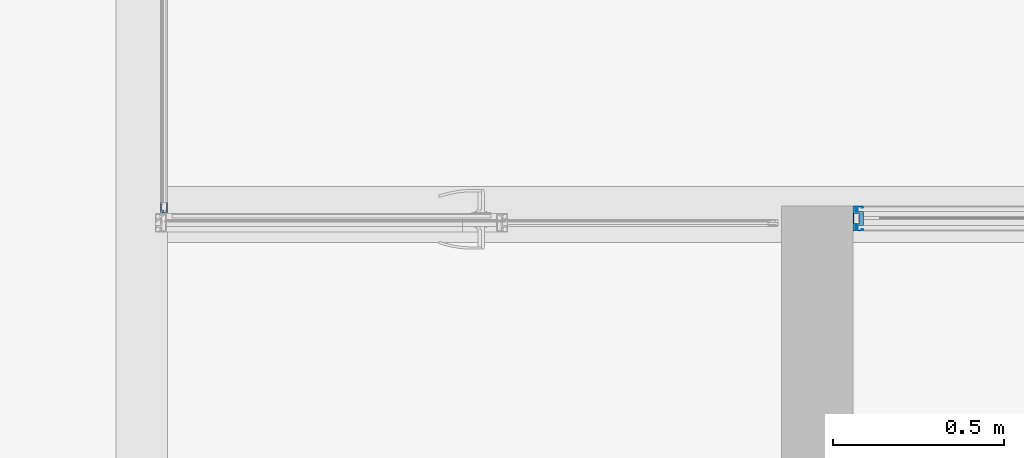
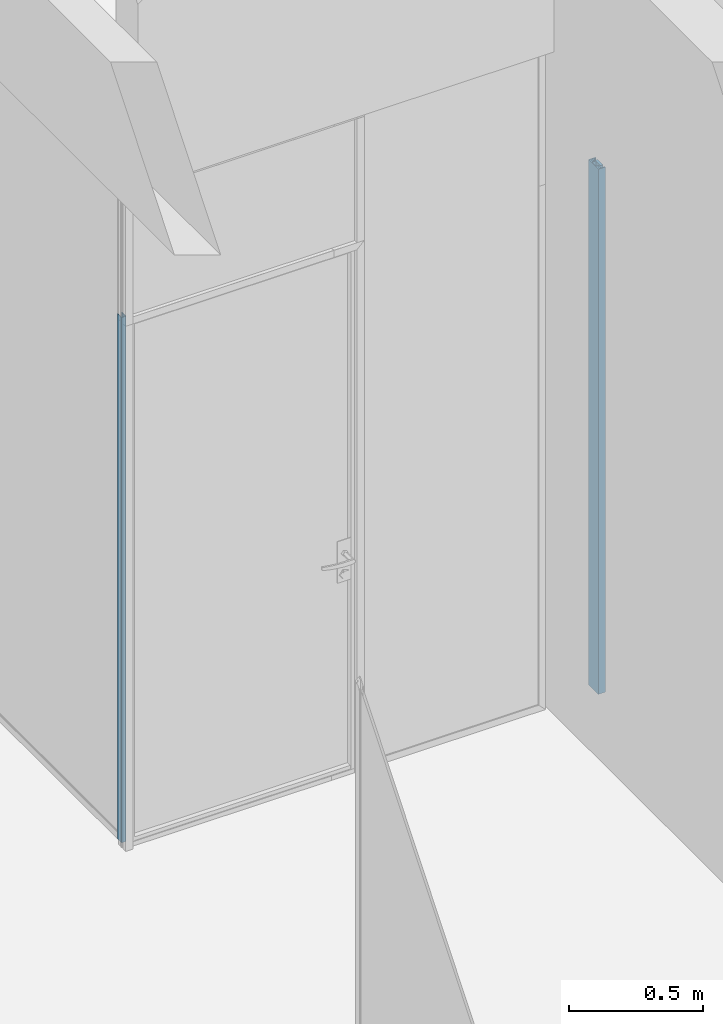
# One storey, part 56 of 387: 3 building element parts, 4 elements without a shape of their own.
"""IFC2X3 building model written with IfcOpenShell, lengths in millimetres."""

import ifcopenshell
import ifcopenshell.guid

model = None  # the IFC model being written
_history = None  # IfcOwnerHistory: only IFC2X3 demands one
_inside = {}  # id of a spatial element -> (the spatial element, [elements in it])
_under = {}  # id of a project, library or spatial element -> (it, [spatial elements below it])
_declared = {}  # id of a project -> (the project, [libraries it declares])
_typed = {}  # id of a type object -> (the type object, [elements of that type])
_made_of = {}  # id of a material, layer set ... -> (it, [elements and type objects made of it])


def new_model(schema):
    """Start an empty IFC model of exactly this schema.

    Asked for "IFC4X3", IfcOpenShell would pick the latest addendum, in which some entities
    have other attributes; the version numbers below select the first issue.
    IFC2X3 requires an IfcOwnerHistory on every rooted entity: one is made here for all.
    """
    global model, _history
    if schema == "IFC4X3":
        model = ifcopenshell.file(schema_version=(4, 3, 0, 0))
    else:
        model = ifcopenshell.file(schema=schema)
    _inside.clear()
    _under.clear()
    _declared.clear()
    _typed.clear()
    _made_of.clear()
    _history = None
    if model.schema == "IFC2X3":
        org = make("IfcOrganization", Name="unknown")
        user = make(
            "IfcPersonAndOrganization",
            ThePerson=make("IfcPerson", FamilyName="unknown"),
            TheOrganization=org,
        )
        app = make(
            "IfcApplication",
            ApplicationDeveloper=org,
            Version="unknown",
            ApplicationFullName="unknown",
            ApplicationIdentifier="unknown",
        )
        _history = make(
            "IfcOwnerHistory",
            OwningUser=user,
            OwningApplication=app,
            ChangeAction="ADDED",
            CreationDate=0,
        )
    return model


def make(cls, **values):
    """One entity of the class cls with the attributes given. An attribute that is None is left unset."""
    return model.create_entity(
        cls, **{name: value for name, value in values.items() if value is not None}
    )


def entity(cls, *values):
    """Any entity or typed value of the class cls, its attributes in the order of the schema. None: left unset."""
    e = model.create_entity(cls)
    for i, value in enumerate(values):
        if value is not None:
            e[i] = value
    return e


def rooted(cls, **values):
    """An entity with a GlobalId (a new one), such as an element, a storey or a relation."""
    return make(cls, GlobalId=ifcopenshell.guid.new(), OwnerHistory=_history, **values)


def si_unit(unit_type, name, prefix=None):
    """IfcSIUnit, for example si_unit("LENGTHUNIT", "METRE", prefix="MILLI")."""
    return make("IfcSIUnit", UnitType=unit_type, Prefix=prefix, Name=name)


def converted_unit(unit_type, name, factor, base, dimensions=None, offset=None):
    """IfcConversionBasedUnit, such as the inch: factor (a typed value) times the base unit."""
    return make(
        "IfcConversionBasedUnit"
        if offset is None
        else "IfcConversionBasedUnitWithOffset",
        ConversionOffset=offset,
        Dimensions=None
        if dimensions is None
        else entity("IfcDimensionalExponents", *dimensions),
        UnitType=unit_type,
        Name=name,
        ConversionFactor=make(
            "IfcMeasureWithUnit", ValueComponent=factor, UnitComponent=base
        ),
    )


def derived_unit(unit_type, elements):
    """IfcDerivedUnit: a product of units, each with its exponent."""
    return make(
        "IfcDerivedUnit",
        Elements=[
            make("IfcDerivedUnitElement", Unit=unit, Exponent=power)
            for unit, power in elements
        ],
        UnitType=unit_type,
    )


def money_unit(currency):
    """IfcMonetaryUnit."""
    return make("IfcMonetaryUnit", Currency=currency)


def assignment(units):
    """IfcUnitAssignment: the units of a project."""
    return None if units is None else make("IfcUnitAssignment", Units=units)


def point(xyz):
    """IfcCartesianPoint."""
    return None if xyz is None else make("IfcCartesianPoint", Coordinates=xyz)


def direction(xyz):
    """IfcDirection."""
    return None if xyz is None else make("IfcDirection", DirectionRatios=xyz)


def frame(location, z_axis=None, x_axis=None):
    """IfcAxis2Placement3D, a coordinate frame: its origin and axes. An axis left out is left unset."""
    return make(
        "IfcAxis2Placement3D",
        Location=point(location),
        Axis=direction(z_axis),
        RefDirection=direction(x_axis),
    )


def origin_with_axes():
    """The frame at (0, 0, 0) with the z axis (0, 0, 1) and the x axis (1, 0, 0) written out."""
    return frame((0.0, 0.0, 0.0), z_axis=(0.0, 0.0, 1.0), x_axis=(1.0, 0.0, 0.0))


def place(relative_to, where):
    """IfcLocalPlacement: puts the frame where relative to a parent placement (None: the world)."""
    return make(
        "IfcLocalPlacement", PlacementRelTo=relative_to, RelativePlacement=where
    )


def context(
    kind, dimensions, precision=None, world=None, true_north=None, identifier=None
):
    """IfcGeometricRepresentationContext, for example the 3D "Model" context."""
    return make(
        "IfcGeometricRepresentationContext",
        ContextIdentifier=identifier,
        ContextType=kind,
        CoordinateSpaceDimension=dimensions,
        Precision=precision,
        WorldCoordinateSystem=world,
        TrueNorth=true_north,
    )


def subcontext(parent, identifier, kind, view, scale=None):
    """IfcGeometricRepresentationSubContext, for example "Body" below "Model"."""
    return make(
        "IfcGeometricRepresentationSubContext",
        ContextIdentifier=identifier,
        ContextType=kind,
        ParentContext=parent,
        TargetScale=scale,
        TargetView=view,
    )


def project(units=None, contexts=None):
    """IfcProject with its units and contexts."""
    return rooted(
        "IfcProject",
        Name="project",
        RepresentationContexts=contexts,
        UnitsInContext=assignment(units),
    )


def spatial(cls, under=None, at=None, **own):
    """A site, building, storey or space (cls), placed at a placement, below another one or the project."""
    s = rooted(cls, ObjectPlacement=at, **own)
    if under is not None:
        _under.setdefault(under.id(), (under, []))[1].append(s)
    return s


def faces_of(points, faces, orient=None, outer=None):
    """IfcFace entities. A face is a list of loops; a loop is a list of indices into points, from 0.

    orient and outer hold one flag for each loop. By default every Orientation is true, the
    first loop of a face is its IfcFaceOuterBound and the others are IfcFaceBound.
    """
    made = []
    for i, loops in enumerate(faces):
        bounds = []
        for j, loop in enumerate(loops):
            is_outer = j == 0 if outer is None else outer[i][j]
            bounds.append(
                make(
                    "IfcFaceOuterBound" if is_outer else "IfcFaceBound",
                    Bound=make("IfcPolyLoop", Polygon=[points[k] for k in loop]),
                    Orientation=True if orient is None else orient[i][j],
                )
            )
        made.append(make("IfcFace", Bounds=bounds))
    return made


def faceted_brep(points, faces, orient=None, outer=None, voids=None):
    """IfcFacetedBrep: a solid bounded by flat faces; with voids (closed shells), ...WithVoids."""
    shared = [point(p) for p in points]
    hull = make("IfcClosedShell", CfsFaces=faces_of(shared, faces, orient, outer))
    if voids is None:
        return make("IfcFacetedBrep", Outer=hull)
    return make(
        "IfcFacetedBrepWithVoids",
        Outer=hull,
        Voids=[
            make(cls, CfsFaces=faces_of(shared, fs, o, b)) for cls, fs, o, b in voids
        ],
    )


def shape(context_of_items, identifier, shape_type, items):
    """IfcShapeRepresentation: the items that make up one representation, for example the "Body"."""
    return make(
        "IfcShapeRepresentation",
        ContextOfItems=context_of_items,
        RepresentationIdentifier=identifier,
        RepresentationType=shape_type,
        Items=items,
    )


def source(mapping_origin, context_of_items, identifier, shape_type, items):
    """IfcRepresentationMap: a shape defined once, which mapped items show again and again."""
    return make(
        "IfcRepresentationMap",
        MappingOrigin=mapping_origin,
        MappedRepresentation=shape(context_of_items, identifier, shape_type, items),
    )


def transform(
    local_origin,
    x_axis=None,
    y_axis=None,
    z_axis=None,
    scale=None,
    scale2=None,
    scale3=None,
    uniform=True,
):
    """IfcCartesianTransformationOperator3D, or its non-uniform kind. x_axis, y_axis, z_axis: its Axis1, 2, 3."""
    if uniform:
        return make(
            "IfcCartesianTransformationOperator3D",
            Axis1=direction(x_axis),
            Axis2=direction(y_axis),
            LocalOrigin=point(local_origin),
            Scale=scale,
            Axis3=direction(z_axis),
        )
    return make(
        "IfcCartesianTransformationOperator3DnonUniform",
        Axis1=direction(x_axis),
        Axis2=direction(y_axis),
        LocalOrigin=point(local_origin),
        Scale=scale,
        Axis3=direction(z_axis),
        Scale2=scale2,
        Scale3=scale3,
    )


def mapped(mapping_source, mapping_target):
    """IfcMappedItem: shows the shape of a source again, moved by a transform."""
    return make(
        "IfcMappedItem", MappingSource=mapping_source, MappingTarget=mapping_target
    )


def material(Name=None, Category=None):
    """IfcMaterial."""
    return make("IfcMaterial", Name=Name, Category=Category)


def made_of(thing, what):
    """Note that an element or type object is made of a material, layer set ...; save() writes the relation."""
    if what is not None:
        _made_of.setdefault(what.id(), (what, []))[1].append(thing)
    return thing


def type_object(cls, material=None, **own):
    """A type object (cls), such as IfcWallType, which elements share."""
    return made_of(rooted(cls, **own), material)


def element(
    cls,
    number,
    at=None,
    inside=None,
    cuts=None,
    type_object=None,
    material=None,
    context=None,
    identifier="Body",
    shape_type=None,
    held_by="IfcProductDefinitionShape",
    body=None,
    shapes=None,
    **own,
):
    """One element of the class cls, such as IfcWall. Its Tag is "e" and its number.

    at: its placement. inside: the storey or other place that contains it. cuts: it is an
    opening in that element (IfcRelVoidsElement). A single representation is given by context,
    identifier, shape_type and body (its items); several are given by shapes. held_by: the class
    of the entity that holds the representations. save() writes the other relations.
    """
    e = rooted(cls, Tag="e%d" % number, ObjectPlacement=at, **own)
    if body is not None:
        shapes = [shape(context, identifier, shape_type, body)]
    if shapes is not None:
        e.Representation = make(held_by, Representations=shapes)
    if inside is not None:
        _inside.setdefault(inside.id(), (inside, []))[1].append(e)
    if cuts is not None:
        rooted(
            "IfcRelVoidsElement", RelatingBuildingElement=cuts, RelatedOpeningElement=e
        )
    if type_object is not None:
        _typed.setdefault(type_object.id(), (type_object, []))[1].append(e)
    return made_of(e, material)


def aggregate(whole, parts):
    """IfcRelAggregates: a whole, such as a stair, and the parts it consists of."""
    return rooted("IfcRelAggregates", RelatingObject=whole, RelatedObjects=parts)


def save(model, path):
    """Write the relations noted so far, then the file.

    IfcRelAggregates (storeys below a building ...), IfcRelContainedInSpatialStructure (elements
    in a storey), IfcRelDefinesByType, IfcRelAssociatesMaterial and IfcRelDeclares: one each for
    every whole, place, type object, material and project.
    """
    for whole, parts in _under.values():
        aggregate(whole, parts)
    for where, things in _inside.values():
        rooted(
            "IfcRelContainedInSpatialStructure",
            RelatedElements=things,
            RelatingStructure=where,
        )
    for kind, things in _typed.values():
        rooted("IfcRelDefinesByType", RelatedObjects=things, RelatingType=kind)
    for what, things in _made_of.values():
        rooted("IfcRelAssociatesMaterial", RelatedObjects=things, RelatingMaterial=what)
    for by, libraries in _declared.values():
        rooted("IfcRelDeclares", RelatingContext=by, RelatedDefinitions=libraries)
    model.write(path)


model = new_model("IFC2X3")

# Units and contexts
model_context = context("Model", 3, precision=0.01, world=origin_with_axes(), true_north=direction((0.0, 1.0)))
body_context = subcontext(model_context, "Body", "Model", "MODEL_VIEW")
ifc_project = project(units=[si_unit("LENGTHUNIT", "METRE", prefix="MILLI"), si_unit("AREAUNIT", "SQUARE_METRE"), si_unit("VOLUMEUNIT", "CUBIC_METRE"), converted_unit("PLANEANGLEUNIT", "DEGREE", entity("IfcPlaneAngleMeasure", 0.0174532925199), si_unit("PLANEANGLEUNIT", "RADIAN"), dimensions=[0, 0, 0, 0, 0, 0, 0]), si_unit("SOLIDANGLEUNIT", "STERADIAN"), money_unit("EUR"), converted_unit("TIMEUNIT", "Year", entity("IfcTimeMeasure", 31556926.0), si_unit("TIMEUNIT", "SECOND"), dimensions=[0, 0, 1, 0, 0, 0, 0]), si_unit("MASSUNIT", "GRAM", prefix="KILO"), si_unit("THERMODYNAMICTEMPERATUREUNIT", "DEGREE_CELSIUS"), si_unit("LUMINOUSINTENSITYUNIT", "LUMEN"), si_unit("ENERGYUNIT", "JOULE", prefix="MEGA"), derived_unit("THERMALCONDUCTANCEUNIT", [(si_unit("POWERUNIT", "WATT"), 1), (si_unit("LENGTHUNIT", "METRE"), -1), (si_unit("THERMODYNAMICTEMPERATUREUNIT", "KELVIN"), -1)]), derived_unit("SPECIFICHEATCAPACITYUNIT", [(si_unit("ENERGYUNIT", "JOULE"), 1), (si_unit("MASSUNIT", "GRAM", prefix="KILO"), -1), (si_unit("THERMODYNAMICTEMPERATUREUNIT", "KELVIN"), -1)]), derived_unit("MASSDENSITYUNIT", [(si_unit("MASSUNIT", "GRAM", prefix="KILO"), 1), (si_unit("VOLUMEUNIT", "CUBIC_METRE"), -1)])], contexts=[model_context])

# Site, building, storey
site_placement = place(None, origin_with_axes())
site = spatial("IfcSite", under=ifc_project, at=site_placement, Name="Puškini 31, Narva", CompositionType="ELEMENT")
building_placement = place(site_placement, origin_with_axes())
building = spatial("IfcBuilding", under=site, at=building_placement, Name="Narva Riigigümnaasium", CompositionType="ELEMENT")
storey_placement = place(building_placement, frame((0.0, 0.0, 2640.0), z_axis=(0.0, 0.0, 1.0), x_axis=(1.0, 0.0, 0.0)))
storey = spatial("IfcBuildingStorey", under=building, at=storey_placement, Name="2.korrus +2.64", CompositionType="ELEMENT", Elevation=2640.0)

# Curtain wall, member, building element part
curtain_wall_type = type_object("IfcCurtainWallType", Name="Curtain Wall Type", PredefinedType="NOTDEFINED")
curtain_wall_1_placement = place(storey_placement, frame((28389.9972784, 173774.499972, -5.2224053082e-05), z_axis=(0.0, 0.0, 1.0), x_axis=(1.0, 0.0, 0.0)))
curtain_wall_1 = element("IfcCurtainWall", 1, at=curtain_wall_1_placement, inside=storey, type_object=curtain_wall_type, Name="G-SKLF-15.2")
member_type_1 = type_object("IfcMemberType", Name="Boundary Frame 30 x 10", PredefinedType="MULLION")
member_1_placement = place(curtain_wall_1_placement, frame((-7.84794451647e-09, -294.500035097, 2400.00005222), z_axis=(0.0, 0.0, -1.0), x_axis=(0.0, 1.0, 0.0)))
member_1 = element("IfcMember", 2, at=member_1_placement, type_object=member_type_1, Name="G-SKLF-93-raam", ObjectType="MULLION")
aggregate(curtain_wall_1, [member_1])
ifc_material_1 = material(Name="ET-04_Alumiinium")
shared_shape_1 = source(origin_with_axes(), body_context, "Body", "Brep", [
    faceted_brep([(0.0, 9.99999999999, -4.10349964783e-07), (0.0, 9.99999999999, 2400.00005222), (0.0, -9.99999999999, 2400.00005222), (0.0, -9.99999999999, -4.10349964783e-07), (-29.5, 10.0, -4.10349964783e-07), (-29.5, 10.0, 2400.00005222), (-29.75, 9.93301270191, 2400.00005222), (-29.9330127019, 9.75000000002, 2400.00005222), (-30.0, 9.5, 2400.00005222), (-30.0, 7.49999999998, 2400.00005222), (-29.9330127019, 7.24999999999, 2400.00005222), (-29.75, 7.06698729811, 2400.00005222), (-29.5, 7.00000000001, 2400.00005222), (-28.7609519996, 6.99999999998, 2400.00005222), (-28.7, 6.99999999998, 2400.00005222), (-28.6, 7.02679491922, 2400.00005222), (-28.5267949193, 7.09999999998, 2400.00005222), (-28.5, 7.19999999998, 2400.00005222), (-28.5, 7.24760028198, 2400.00005222), (-28.5, 7.76282847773, 2400.00005222), (-28.4849473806, 7.87744178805, 2400.00005222), (-28.4104265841, 7.9658128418, 2400.00005222), (-28.3, 8.00000000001, 2400.00005222), (-25.2, 8.00000000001, 2400.00005222), (-25.1, 7.97320508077, 2400.00005222), (-25.0267949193, 7.90000000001, 2400.00005222), (-25.0, 7.8, 2400.00005222), (-25.0, 7.20000000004, 2400.00005222), (-24.9732050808, 7.10000000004, 2400.00005222), (-24.9, 7.02679491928, 2400.00005222), (-24.8, 7.00000000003, 2400.00005222), (-11.7527616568, 6.99999999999, 2400.00005222), (-11.6187870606, 7.49999999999, 2400.00005222), (-11.2527616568, 7.86602540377, 2400.00005222), (-10.7527616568, 7.99999999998, 2400.00005222), (-6.49999999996, 7.99999999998, 2400.00005222), (-6.99999999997, 7.86602540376, 2400.00005222), (-7.36602540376, 7.49999999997, 2400.00005222), (-7.49999999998, 6.99999999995, 2400.00005222), (-7.49999999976, 2.00000000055, 2400.00005222), (-7.43301270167, 1.75000000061, 2400.00005222), (-7.24999999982, 1.56698729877, 2400.00005222), (-6.99999999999, 1.50000000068, 2400.00005222), (-2.99998847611, 1.50000000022, 2400.00005222), (-2.75096907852, 1.43357737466, 2400.00005222), (-2.56811176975, 1.25195735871, 2400.00005222), (-2.5, 1.00339466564, 2400.00005222), (-2.5, -6.99999999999, 2400.00005222), (-2.56698729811, -7.24999999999, 2400.00005222), (-2.75, -7.43301270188, 2400.00005222), (-3.0, -7.49999999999, 2400.00005222), (-5.24723834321, -7.49999999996, 2400.00005222), (-5.49723834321, -7.43301270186, 2400.00005222), (-5.6802510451, -7.24999999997, 2400.00005222), (-5.7472383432, -6.99999999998, 2400.00005222), (-5.74723834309, -4.03369212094, 2400.00005222), (-7.0, -4.03369212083, 2400.00005222), (-7.24999999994, -4.10067941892, 2400.00005222), (-7.43301270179, -4.28369212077, 2400.00005222), (-7.49999999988, -4.5336921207, 2400.00005222), (-7.49999999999, -7.00000000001, 2400.00005222), (-7.63397459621, -7.50000000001, 2400.00005222), (-7.99999999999, -7.86602540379, 2400.00005222), (-8.49999999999, -8.00000000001, 2400.00005222), (-10.7527616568, -7.99999999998, 2400.00005222), (-11.2527616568, -7.86602540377, 2400.00005222), (-11.6187870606, -7.49999999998, 2400.00005222), (-11.7527616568, -6.99999999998, 2400.00005222), (-24.8, -7.00000000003, 2400.00005222), (-24.9, -7.02679491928, 2400.00005222), (-24.9732050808, -7.10000000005, 2400.00005222), (-25.0, -7.20000000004, 2400.00005222), (-25.0, -7.79999999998, 2400.00005222), (-25.0267949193, -7.89999999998, 2400.00005222), (-25.1, -7.97320508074, 2400.00005222), (-25.2, -7.99999999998, 2400.00005222), (-28.3, -7.99999999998, 2400.00005222), (-28.4, -7.97320508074, 2400.00005222), (-28.4732050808, -7.89999999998, 2400.00005222), (-28.5, -7.79999999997, 2400.00005222), (-28.5, -7.19999999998, 2400.00005222), (-28.5267949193, -7.09999999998, 2400.00005222), (-28.6, -7.02679491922, 2400.00005222), (-28.7, -6.99999999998, 2400.00005222), (-29.5, -6.99999999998, 2400.00005222), (-29.75, -7.06698729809, 2400.00005222), (-29.9330127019, -7.24999999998, 2400.00005222), (-30.0, -7.49999999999, 2400.00005222), (-30.0, -9.5, 2400.00005222), (-29.9224245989, -9.76651288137, 2400.00005222), (-29.7157683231, -9.95182408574, 2400.00005222), (-29.4424074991, -9.99999999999, 2400.00005222), (-29.4424074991, -9.99999999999, -4.10349964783e-07), (-29.7157683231, -9.95182408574, -4.10349964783e-07), (-29.9224245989, -9.76651288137, -4.10349964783e-07), (-30.0, -9.5, -4.10349964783e-07), (-30.0, -7.49999999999, -4.10349964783e-07), (-29.9330127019, -7.24999999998, -4.10349964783e-07), (-29.75, -7.06698729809, -4.10349964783e-07), (-29.5, -6.99999999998, -4.10349964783e-07), (-28.7, -6.99999999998, -4.10349964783e-07), (-28.6, -7.02679491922, -4.10349964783e-07), (-28.5267949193, -7.09999999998, -4.10349964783e-07), (-28.5, -7.19999999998, -4.10349964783e-07), (-28.5, -7.79999999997, -4.10349964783e-07), (-28.4732050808, -7.89999999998, -4.10349964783e-07), (-28.4, -7.97320508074, -4.10349964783e-07), (-28.3, -7.99999999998, -4.10349964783e-07), (-25.2, -7.99999999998, -4.10349964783e-07), (-25.1, -7.97320508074, -4.10349964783e-07), (-25.0267949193, -7.89999999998, -4.10349964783e-07), (-25.0, -7.79999999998, -4.10349964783e-07), (-25.0, -7.20000000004, -4.10349964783e-07), (-24.9732050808, -7.10000000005, -4.10349964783e-07), (-24.9, -7.02679491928, -4.10349964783e-07), (-24.8, -7.00000000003, -4.10349964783e-07), (-11.7527616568, -6.99999999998, -4.10349964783e-07), (-11.6187870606, -7.49999999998, -4.10349964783e-07), (-11.2527616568, -7.86602540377, -4.10349964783e-07), (-10.7527616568, -7.99999999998, -4.10349964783e-07), (-8.49999999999, -8.00000000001, -4.10349964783e-07), (-7.99999999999, -7.86602540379, -4.10349964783e-07), (-7.63397459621, -7.50000000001, -4.10349964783e-07), (-7.49999999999, -7.00000000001, -4.10349964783e-07), (-7.49999999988, -4.5336921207, -4.10349964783e-07), (-7.43301270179, -4.28369212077, -4.10349964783e-07), (-7.24999999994, -4.10067941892, -4.10349964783e-07), (-7.0, -4.03369212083, -4.10349964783e-07), (-5.74723834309, -4.03369212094, -4.10349964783e-07), (-5.7472383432, -6.99999999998, -4.10349964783e-07), (-5.6802510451, -7.24999999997, -4.10349964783e-07), (-5.49723834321, -7.43301270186, -4.10349964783e-07), (-5.24723834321, -7.49999999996, -4.10349964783e-07), (-3.0, -7.49999999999, -4.10349964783e-07), (-2.75, -7.43301270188, -4.10349964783e-07), (-2.56698729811, -7.24999999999, -4.10349964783e-07), (-2.5, -6.99999999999, -4.10349964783e-07), (-2.5, 1.00339466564, -4.10349964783e-07), (-2.56811176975, 1.25195735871, -4.10349964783e-07), (-2.75096907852, 1.43357737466, -4.10349964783e-07), (-2.99998847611, 1.50000000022, -4.10349964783e-07), (-6.99999999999, 1.50000000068, -4.10349964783e-07), (-7.24999999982, 1.56698729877, -4.10349964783e-07), (-7.43301270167, 1.75000000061, -4.10349964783e-07), (-7.49999999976, 2.00000000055, -4.10349964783e-07), (-7.49999999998, 6.99999999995, -4.10349964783e-07), (-7.36602540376, 7.49999999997, -4.10349964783e-07), (-6.99999999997, 7.86602540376, -4.10349964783e-07), (-6.49999999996, 7.99999999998, -4.10349964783e-07), (-10.7527616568, 7.99999999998, -4.10349964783e-07), (-11.2527616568, 7.86602540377, -4.10349964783e-07), (-11.6187870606, 7.49999999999, -4.10349964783e-07), (-11.7527616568, 6.99999999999, -4.10349964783e-07), (-24.8, 7.00000000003, -4.10349964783e-07), (-24.9, 7.02679491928, -4.10349964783e-07), (-24.9732050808, 7.10000000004, -4.10349964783e-07), (-25.0, 7.20000000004, -4.10349964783e-07), (-25.0, 7.8, -4.10349964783e-07), (-25.0267949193, 7.90000000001, -4.10349964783e-07), (-25.1, 7.97320508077, -4.10349964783e-07), (-25.2, 8.00000000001, -4.10349964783e-07), (-28.3, 8.00000000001, -4.10349964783e-07), (-28.4104265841, 7.9658128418, -4.10349964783e-07), (-28.4849473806, 7.87744178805, -4.10349964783e-07), (-28.5, 7.76282847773, -4.10349964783e-07), (-28.5, 7.24760028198, -4.10349964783e-07), (-28.5, 7.19999999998, -4.10349964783e-07), (-28.5267949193, 7.09999999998, -4.10349964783e-07), (-28.6, 7.02679491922, -4.10349964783e-07), (-28.7, 6.99999999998, -4.10349964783e-07), (-28.7609519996, 6.99999999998, -4.10349964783e-07), (-29.5, 7.00000000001, -4.10349964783e-07), (-29.75, 7.06698729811, -4.10349964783e-07), (-29.9330127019, 7.24999999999, -4.10349964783e-07), (-30.0, 7.49999999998, -4.10349964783e-07), (-30.0, 9.5, -4.10349964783e-07), (-29.9330127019, 9.75000000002, -4.10349964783e-07), (-29.75, 9.93301270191, -4.10349964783e-07)], [[[0, 1, 2, 3]], [[4, 5, 1, 0]], [[1, 5, 6, 7, 8, 9, 10, 11, 12, 13, 14, 15, 16, 17, 18, 19, 20, 21, 22, 23, 24, 25, 26, 27, 28, 29, 30, 31, 32, 33, 34, 35, 36, 37, 38, 39, 40, 41, 42, 43, 44, 45, 46, 47, 48, 49, 50, 51, 52, 53, 54, 55, 56, 57, 58, 59, 60, 61, 62, 63, 64, 65, 66, 67, 68, 69, 70, 71, 72, 73, 74, 75, 76, 77, 78, 79, 80, 81, 82, 83, 84, 85, 86, 87, 88, 89, 90, 91, 2]], [[3, 2, 91, 92]], [[0, 3, 92, 93, 94, 95, 96, 97, 98, 99, 100, 101, 102, 103, 104, 105, 106, 107, 108, 109, 110, 111, 112, 113, 114, 115, 116, 117, 118, 119, 120, 121, 122, 123, 124, 125, 126, 127, 128, 129, 130, 131, 132, 133, 134, 135, 136, 137, 138, 139, 140, 141, 142, 143, 144, 145, 146, 147, 148, 149, 150, 151, 152, 153, 154, 155, 156, 157, 158, 159, 160, 161, 162, 163, 164, 165, 166, 167, 168, 169, 170, 171, 172, 173, 174, 175, 176, 177, 4]], [[177, 6, 5, 4]], [[176, 7, 6, 177]], [[175, 8, 7, 176]], [[174, 9, 8, 175]], [[173, 10, 9, 174]], [[172, 11, 10, 173]], [[171, 12, 11, 172]], [[170, 13, 12, 171]], [[169, 14, 13, 170]], [[168, 15, 14, 169]], [[167, 16, 15, 168]], [[166, 17, 16, 167]], [[165, 18, 17, 166]], [[164, 19, 18, 165]], [[163, 20, 19, 164]], [[162, 21, 20, 163]], [[161, 22, 21, 162]], [[160, 23, 22, 161]], [[159, 24, 23, 160]], [[158, 25, 24, 159]], [[157, 26, 25, 158]], [[156, 27, 26, 157]], [[155, 28, 27, 156]], [[154, 29, 28, 155]], [[153, 30, 29, 154]], [[152, 31, 30, 153]], [[151, 32, 31, 152]], [[150, 33, 32, 151]], [[149, 34, 33, 150]], [[148, 35, 34, 149]], [[147, 36, 35, 148]], [[146, 37, 36, 147]], [[145, 38, 37, 146]], [[144, 39, 38, 145]], [[143, 40, 39, 144]], [[142, 41, 40, 143]], [[141, 42, 41, 142]], [[140, 43, 42, 141]], [[139, 44, 43, 140]], [[138, 45, 44, 139]], [[137, 46, 45, 138]], [[136, 47, 46, 137]], [[135, 48, 47, 136]], [[134, 49, 48, 135]], [[133, 50, 49, 134]], [[132, 51, 50, 133]], [[131, 52, 51, 132]], [[130, 53, 52, 131]], [[129, 54, 53, 130]], [[128, 55, 54, 129]], [[127, 56, 55, 128]], [[126, 57, 56, 127]], [[125, 58, 57, 126]], [[124, 59, 58, 125]], [[123, 60, 59, 124]], [[122, 61, 60, 123]], [[121, 62, 61, 122]], [[120, 63, 62, 121]], [[119, 64, 63, 120]], [[118, 65, 64, 119]], [[117, 66, 65, 118]], [[116, 67, 66, 117]], [[115, 68, 67, 116]], [[114, 69, 68, 115]], [[113, 70, 69, 114]], [[112, 71, 70, 113]], [[111, 72, 71, 112]], [[110, 73, 72, 111]], [[109, 74, 73, 110]], [[108, 75, 74, 109]], [[107, 76, 75, 108]], [[106, 77, 76, 107]], [[105, 78, 77, 106]], [[104, 79, 78, 105]], [[103, 80, 79, 104]], [[102, 81, 80, 103]], [[101, 82, 81, 102]], [[100, 83, 82, 101]], [[99, 84, 83, 100]], [[98, 85, 84, 99]], [[97, 86, 85, 98]], [[96, 87, 86, 97]], [[95, 88, 87, 96]], [[94, 89, 88, 95]], [[93, 90, 89, 94]], [[92, 91, 90, 93]]]),
])
building_element_part_1_placement = place(member_1_placement, origin_with_axes())
building_element_part_1 = element("IfcBuildingElementPart", 3, at=building_element_part_1_placement, material=ifc_material_1, Name="ET-04_Alumiinium", context=body_context, shape_type="MappedRepresentation", body=[
    mapped(shared_shape_1, transform((0.0, 0.0, 0.0), x_axis=(-1.0, 0.0, 0.0), y_axis=(0.0, -1.0, 0.0), z_axis=(0.0, 0.0, 1.0))),
])
aggregate(member_1, [building_element_part_1])

# Curtain wall, member, building element parts
curtain_wall_2_placement = place(storey_placement, frame((30909.9999988, 173462.997263, -3.04069565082e-05), z_axis=(0.0, 0.0, 1.0), x_axis=(1.0, 0.0, 0.0)))
curtain_wall_2 = element("IfcCurtainWall", 4, at=curtain_wall_2_placement, inside=storey, type_object=curtain_wall_type, Name="G-SKLF-13")
member_type_2 = type_object("IfcMemberType", Name="30 x 37", PredefinedType="MULLION")
member_2_placement = place(curtain_wall_2_placement, frame((-500.0, 1.07434061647e-08, 0.0), z_axis=(0.0, 0.0, 1.0), x_axis=(-1.0, 0.0, 0.0)))
member_2 = element("IfcMember", 5, at=member_2_placement, type_object=member_type_2, Name="G-SKLF-13-raam", ObjectType="MULLION")
aggregate(curtain_wall_2, [member_2])
ifc_material_2 = material(Name="Klaasvill")
shared_shape_2 = source(origin_with_axes(), body_context, "Body", "Brep", [
    faceted_brep([(-7.49999990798, 20.000000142, 0.0), (-7.49999990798, 20.000000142, 2400.00003041), (-13.8499999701, 20.000000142, 2400.00003041), (-13.8499999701, 20.000000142, 0.0), (-7.49999990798, 34.0161444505, 0.0), (-7.49999990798, 34.0161444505, 2400.00003041), (-13.8499999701, 34.0161444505, 2400.00003041), (-13.8499999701, 34.0161444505, 0.0)], [[[0, 1, 2, 3]], [[4, 5, 1, 0]], [[1, 5, 6, 2]], [[3, 2, 6, 7]], [[0, 3, 7, 4]], [[7, 6, 5, 4]]]),
    faceted_brep([(-24.987414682, 34.0161444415, 0.0), (-24.987414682, 34.0161444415, 2400.00003041), (-25.004489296, 32.0307503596, 2400.00003041), (-25.004489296, 32.0307503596, 0.0), (-28.5126239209, 34.0161444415, 0.0), (-28.5126239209, 34.0161444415, 2400.00003041), (-28.7655837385, 33.0385325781, 2400.00003041), (-28.4955493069, 32.0307503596, 2400.00003041), (-27.75780152, 31.2930025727, 2400.00003041), (-26.7500193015, 31.0229681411, 2400.00003041), (-25.742237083, 31.2930025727, 2400.00003041), (-25.742237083, 31.2930025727, 0.0), (-26.7500193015, 31.0229681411, 0.0), (-27.75780152, 31.2930025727, 0.0), (-28.4955493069, 32.0307503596, 0.0), (-28.7655837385, 33.0385325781, 0.0)], [[[0, 1, 2, 3]], [[4, 5, 1, 0]], [[1, 5, 6, 7, 8, 9, 10, 2]], [[3, 2, 10, 11]], [[0, 3, 11, 12, 13, 14, 15, 4]], [[15, 6, 5, 4]], [[14, 7, 6, 15]], [[13, 8, 7, 14]], [[12, 9, 8, 13]], [[11, 10, 9, 12]]]),
    faceted_brep([(-7.49999990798, -19.9999997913, 0.0), (-7.49999990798, -19.9999997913, 2400.00003041), (-7.49999990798, -34.0161445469, 2400.00003041), (-7.49999990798, -34.0161445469, 0.0), (-13.8499999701, -19.9999997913, 0.0), (-13.8499999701, -19.9999997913, 2400.00003041), (-13.8499999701, -34.0161445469, 2400.00003041), (-13.8499999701, -34.0161445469, 0.0)], [[[0, 1, 2, 3]], [[4, 5, 1, 0]], [[1, 5, 6, 2]], [[3, 2, 6, 7]], [[0, 3, 7, 4]], [[7, 6, 5, 4]]]),
    faceted_brep([(-25.004489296, -32.0307503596, 0.0), (-25.004489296, -32.0307503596, 2400.00003041), (-24.987414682, -34.0161444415, 2400.00003041), (-24.987414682, -34.0161444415, 0.0), (-25.742237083, -31.2930025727, 0.0), (-25.742237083, -31.2930025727, 2400.00003041), (-26.7500193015, -31.0229681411, 2400.00003041), (-27.75780152, -31.2930025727, 2400.00003041), (-28.4955493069, -32.0307503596, 2400.00003041), (-28.7655837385, -33.0385325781, 2400.00003041), (-28.5126239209, -34.0161444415, 2400.00003041), (-28.5126239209, -34.0161444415, 0.0), (-28.7655837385, -33.0385325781, 0.0), (-28.4955493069, -32.0307503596, 0.0), (-27.75780152, -31.2930025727, 0.0), (-26.7500193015, -31.0229681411, 0.0)], [[[0, 1, 2, 3]], [[4, 5, 1, 0]], [[1, 5, 6, 7, 8, 9, 10, 2]], [[3, 2, 10, 11]], [[0, 3, 11, 12, 13, 14, 15, 4]], [[15, 6, 5, 4]], [[14, 7, 6, 15]], [[13, 8, 7, 14]], [[12, 9, 8, 13]], [[11, 10, 9, 12]]]),
])
building_element_part_2_placement = place(member_2_placement, origin_with_axes())
building_element_part_2 = element("IfcBuildingElementPart", 6, at=building_element_part_2_placement, material=ifc_material_2, Name="Klaasvill", context=body_context, shape_type="MappedRepresentation", body=[
    mapped(shared_shape_2, transform((0.0, 0.0, 0.0))),
])
ifc_material_3 = material(Name="Teras RAL7012")
shared_shape_3 = source(origin_with_axes(), body_context, "Body", "Brep", [
    faceted_brep([(0.0, -17.0000000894, 0.0), (0.0, -17.0000000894, 2400.00003041), (-29.5999996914, -17.0000000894, 2400.00003041), (-29.5999996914, -17.0000000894, 0.0), (0.0, 17.0000000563, 0.0), (0.0, 17.0000000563, 2400.00003041), (-29.5999996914, 17.0000000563, 2400.00003041), (-1.9999999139, 15.0000001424, 2400.00003041), (-1.9999999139, -15.0000001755, 2400.00003041), (-18.7999996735, -15.0000001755, 2400.00003041), (-18.7999996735, 15.0000001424, 2400.00003041), (-29.5999996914, 17.0000000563, 0.0), (-1.9999999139, 15.0000001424, 0.0), (-18.7999996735, 15.0000001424, 0.0), (-18.7999996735, -15.0000001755, 0.0), (-1.9999999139, -15.0000001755, 0.0)], [[[0, 1, 2, 3]], [[4, 5, 1, 0]], [[1, 5, 6, 2], [7, 8, 9, 10]], [[3, 2, 6, 11]], [[0, 3, 11, 4], [12, 13, 14, 15]], [[11, 6, 5, 4]], [[15, 8, 7, 12]], [[14, 9, 8, 15]], [[13, 10, 9, 14]], [[12, 7, 10, 13]]]),
    faceted_brep([(0.0, 17.0, 0.0), (0.0, 17.0, 2400.00003041), (-29.5999996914, 17.0000000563, 2400.00003041), (-29.5999996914, 17.0000000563, 0.0), (0.0, 37.0, 0.0), (0.0, 37.0, 2400.00003041), (-30.0000193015, 37.0, 2400.00003041), (-30.0000193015, 34.0161444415, 2400.00003041), (-28.5126239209, 34.0161444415, 2400.00003041), (-24.987414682, 34.0161444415, 2400.00003041), (-13.8499999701, 34.0161444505, 2400.00003041), (-7.49999999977, 34.0161444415, 2400.00003041), (-7.49999999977, 20.0, 2400.00003041), (-13.8499999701, 20.000000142, 2400.00003041), (-30.0000193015, 20.0, 2400.00003041), (-30.0000193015, 17.0, 2400.00003041), (-30.0000193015, 17.0, 0.0), (-30.0000193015, 20.0, 0.0), (-13.8499999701, 20.000000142, 0.0), (-7.49999999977, 20.0, 0.0), (-7.49999999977, 34.0161444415, 0.0), (-13.8499999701, 34.0161444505, 0.0), (-24.987414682, 34.0161444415, 0.0), (-28.5126239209, 34.0161444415, 0.0), (-30.0000193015, 34.0161444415, 0.0), (-30.0000193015, 37.0, 0.0)], [[[0, 1, 2, 3]], [[4, 5, 1, 0]], [[1, 5, 6, 7, 8, 9, 10, 11, 12, 13, 14, 15, 2]], [[3, 2, 15, 16]], [[0, 3, 16, 17, 18, 19, 20, 21, 22, 23, 24, 25, 4]], [[25, 6, 5, 4]], [[24, 7, 6, 25]], [[23, 8, 7, 24]], [[22, 9, 8, 23]], [[21, 10, 9, 22]], [[20, 11, 10, 21]], [[19, 12, 11, 20]], [[18, 13, 12, 19]], [[17, 14, 13, 18]], [[16, 15, 14, 17]]]),
    faceted_brep([(0.0, -17.0, 0.0), (0.0, -17.0, 2400.00003041), (0.0, -37.0, 2400.00003041), (0.0, -37.0, 0.0), (-29.5999996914, -17.0000000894, 0.0), (-29.5999996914, -17.0000000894, 2400.00003041), (-30.0000193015, -17.0, 2400.00003041), (-30.0000193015, -20.0, 2400.00003041), (-13.8499999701, -19.9999997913, 2400.00003041), (-7.49999999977, -20.0, 2400.00003041), (-7.49999999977, -34.0161444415, 2400.00003041), (-13.8499999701, -34.0161445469, 2400.00003041), (-24.987414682, -34.0161444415, 2400.00003041), (-28.5126239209, -34.0161444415, 2400.00003041), (-30.0000193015, -34.0161444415, 2400.00003041), (-30.0000193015, -37.0, 2400.00003041), (-30.0000193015, -37.0, 0.0), (-30.0000193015, -34.0161444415, 0.0), (-28.5126239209, -34.0161444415, 0.0), (-24.987414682, -34.0161444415, 0.0), (-13.8499999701, -34.0161445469, 0.0), (-7.49999999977, -34.0161444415, 0.0), (-7.49999999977, -20.0, 0.0), (-13.8499999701, -19.9999997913, 0.0), (-30.0000193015, -20.0, 0.0), (-30.0000193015, -17.0, 0.0)], [[[0, 1, 2, 3]], [[4, 5, 1, 0]], [[1, 5, 6, 7, 8, 9, 10, 11, 12, 13, 14, 15, 2]], [[3, 2, 15, 16]], [[0, 3, 16, 17, 18, 19, 20, 21, 22, 23, 24, 25, 4]], [[25, 6, 5, 4]], [[24, 7, 6, 25]], [[23, 8, 7, 24]], [[22, 9, 8, 23]], [[21, 10, 9, 22]], [[20, 11, 10, 21]], [[19, 12, 11, 20]], [[18, 13, 12, 19]], [[17, 14, 13, 18]], [[16, 15, 14, 17]]]),
])
building_element_part_3_placement = place(member_2_placement, origin_with_axes())
building_element_part_3 = element("IfcBuildingElementPart", 7, at=building_element_part_3_placement, material=ifc_material_3, Name="Teras RAL7012", context=body_context, shape_type="MappedRepresentation", body=[
    mapped(shared_shape_3, transform((0.0, 0.0, 0.0))),
])
aggregate(member_2, [building_element_part_2, building_element_part_3])

save(model, "model.ifc")
